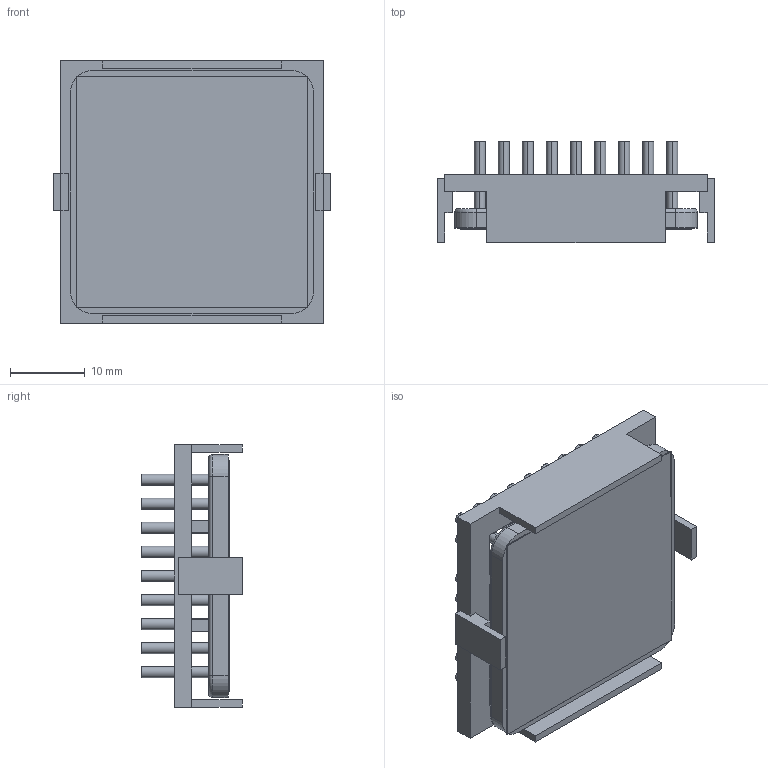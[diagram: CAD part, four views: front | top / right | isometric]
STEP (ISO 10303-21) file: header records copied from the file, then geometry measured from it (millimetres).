
FILE_DESCRIPTION (( 'STEP AP214' ), '1' );
FILE_NAME ('INM33002-12P-2.6BU.STEP', '2023-02-20T20:06:36', ( '' ), ( '' ), 'SwSTEP 2.0', 'SolidWorks 2020', '' );
FILE_SCHEMA (( 'AUTOMOTIVE_DESIGN' ));
Length unit declared in the file: inch
Products named in the file (1): INM33002-12P-2.6BU
Bounding box: 37.2 x 13.5 x 35.2 mm (x, y, z)
Volume: 5618.1 mm3; surface area: 10061.3 mm2
Topology: 3 solids, 3 shells, 301 faces, 658 edges, 436 vertices
Faces by surface type: cylinder 154, plane 143, torus 4
Entity records: 12339 total; most frequent: DIRECTION 1574, CARTESIAN_POINT 1396, ORIENTED_EDGE 1316, EDGE_CURVE 658, AXIS2_PLACEMENT_3D 614, VERTEX_POINT 436, EDGE_LOOP 376, LINE 346
